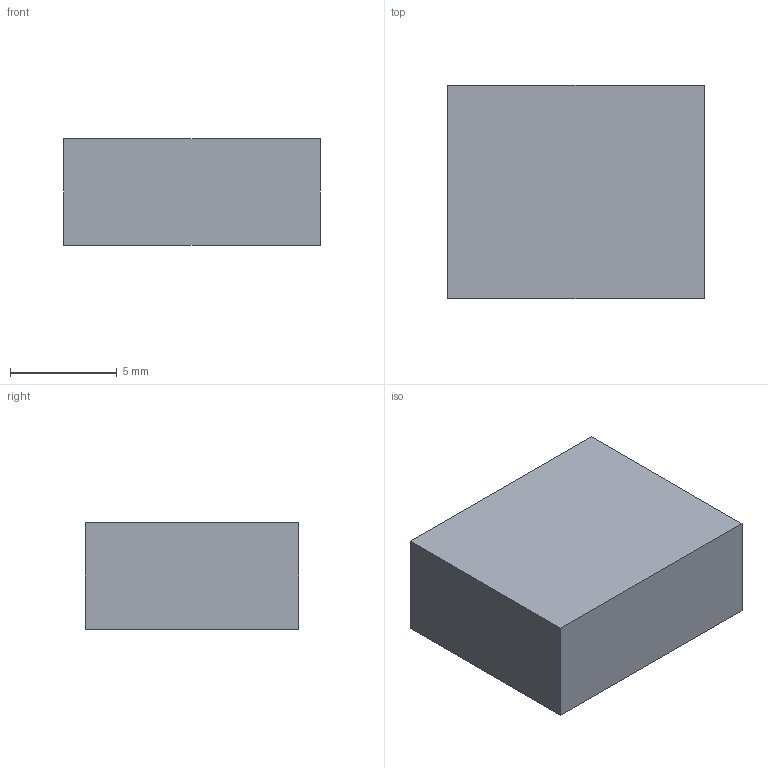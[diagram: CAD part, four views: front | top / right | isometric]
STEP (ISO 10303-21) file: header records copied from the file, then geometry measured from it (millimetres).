
FILE_DESCRIPTION(('Open CASCADE Model'),'2;1');
FILE_NAME('Open CASCADE Shape Model','2026-09-13T10:35:08',('Author'),( 'Open CASCADE'),'Open CASCADE STEP processor 7.9','Open CASCADE 7.9' ,'Unknown');
FILE_SCHEMA(('AUTOMOTIVE_DESIGN { 1 0 10303 214 1 1 1 1 }'));
Length unit declared in the file: millimetre
Products named in the file (1): Open CASCADE STEP translator 7.9 1
Bounding box: 12 x 10 x 5 mm (x, y, z)
Volume: 600 mm3; surface area: 460 mm2
Topology: 1 solids, 1 shells, 6 faces, 12 edges, 8 vertices
Faces by surface type: plane 6
Entity records: 322 total; most frequent: CARTESIAN_POINT 51, DIRECTION 50, LINE 36, VECTOR 36, ORIENTED_EDGE 24, PCURVE 24, DEFINITIONAL_REPRESENTATION 24, EDGE_CURVE 12
